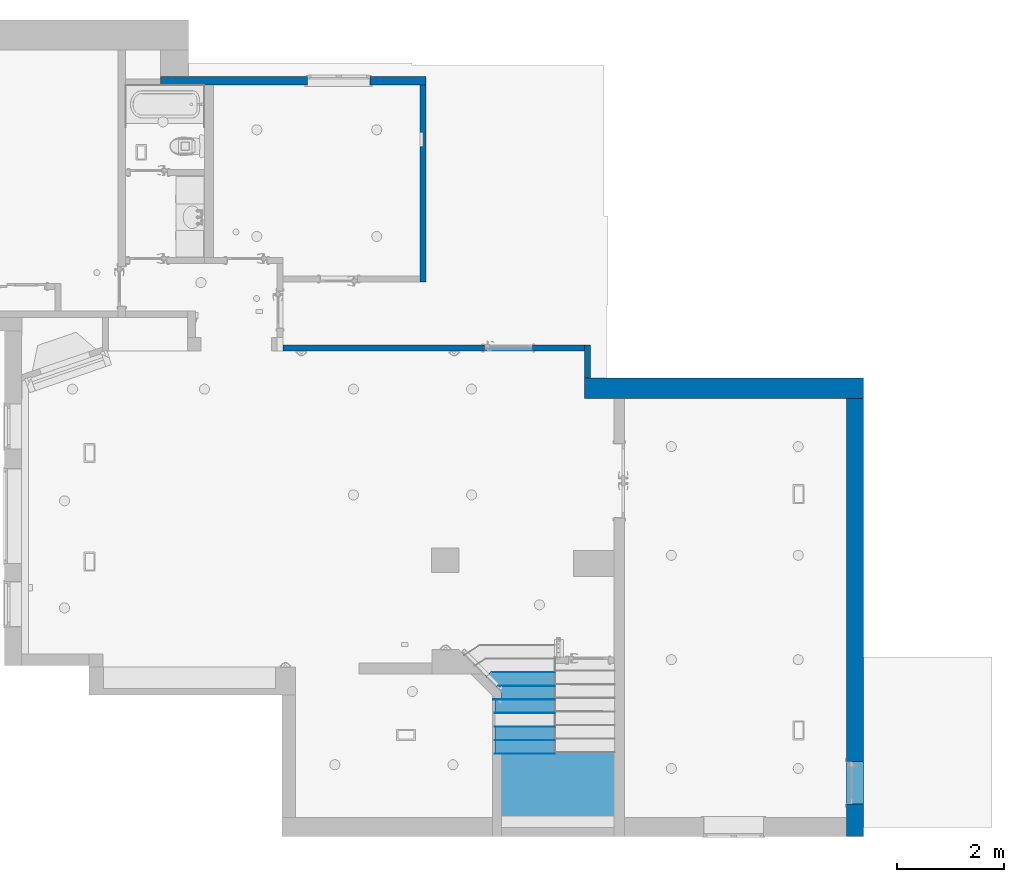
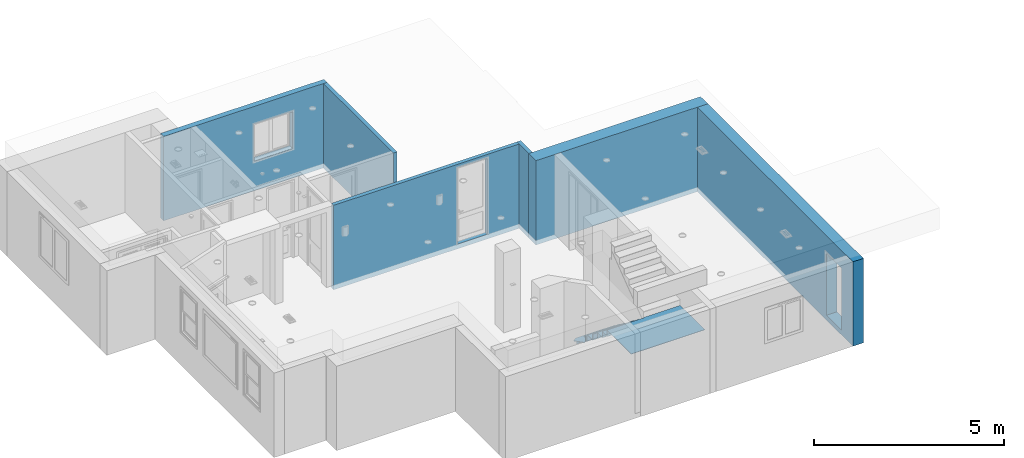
# One storey, part 3 of 24: 13 building element parts, 6 walls, 1 element without a shape of its own.
"""IFC2X3 building model written with IfcOpenShell, lengths in inches."""

from ifc_helpers import new_model, entity, si_unit, converted_unit, derived_unit, money_unit, direction, frame, origin_with_axes, place, context, subcontext, project, spatial, faceted_brep, material, type_object, element, aggregate, save


model = new_model("IFC2X3")

# Units and contexts
model_context = context("Model", 3, precision=0.000393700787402, world=origin_with_axes(), true_north=direction((0.0, 1.0)))
body_context = subcontext(model_context, "Body", "Model", "MODEL_VIEW")
ifc_project = project(units=[converted_unit("LENGTHUNIT", "INCH", entity("IfcPositiveLengthMeasure", 0.0254), si_unit("LENGTHUNIT", "METRE"), dimensions=[1, 0, 0, 0, 0, 0, 0]), converted_unit("AREAUNIT", "SQUARE_FOOT", entity("IfcPositiveLengthMeasure", 0.09290304), si_unit("AREAUNIT", "SQUARE_METRE"), dimensions=[2, 0, 0, 0, 0, 0, 0]), si_unit("PLANEANGLEUNIT", "RADIAN"), si_unit("SOLIDANGLEUNIT", "STERADIAN"), money_unit("USD"), converted_unit("TIMEUNIT", "Year", entity("IfcTimeMeasure", 31556926.0), si_unit("TIMEUNIT", "SECOND"), dimensions=[0, 0, 1, 0, 0, 0, 0]), si_unit("MASSUNIT", "GRAM", prefix="KILO"), si_unit("THERMODYNAMICTEMPERATUREUNIT", "DEGREE_CELSIUS"), si_unit("LUMINOUSINTENSITYUNIT", "LUMEN"), si_unit("ENERGYUNIT", "JOULE", prefix="MEGA"), derived_unit("THERMALCONDUCTANCEUNIT", [(si_unit("POWERUNIT", "WATT"), 1), (si_unit("LENGTHUNIT", "METRE"), -1), (si_unit("THERMODYNAMICTEMPERATUREUNIT", "KELVIN"), -1)]), derived_unit("SPECIFICHEATCAPACITYUNIT", [(si_unit("ENERGYUNIT", "JOULE"), 1), (si_unit("MASSUNIT", "GRAM", prefix="KILO"), -1), (si_unit("THERMODYNAMICTEMPERATUREUNIT", "KELVIN"), -1)]), derived_unit("MASSDENSITYUNIT", [(si_unit("MASSUNIT", "GRAM", prefix="KILO"), 1), (si_unit("VOLUMEUNIT", "CUBIC_METRE"), -1)])], contexts=[model_context])

# Site, building, storey
site_placement = place(None, origin_with_axes())
site = spatial("IfcSite", under=ifc_project, at=site_placement, Name="Site", CompositionType="ELEMENT")
building_placement = place(site_placement, origin_with_axes())
building = spatial("IfcBuilding", under=site, at=building_placement, Name="Building", CompositionType="ELEMENT")
storey_placement = place(building_placement, origin_with_axes())
storey = spatial("IfcBuildingStorey", under=building, at=storey_placement, Name="First Floor", CompositionType="ELEMENT", Elevation=0.0)

# Walls
ifc_material_1 = material(Name="Generic - Structural")
wall_type_1 = type_object("IfcWallType", Name="Generic - Structural 165", PredefinedType="NOTDEFINED")
wall_1_placement = place(storey_placement, frame((583.915153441, 566.450656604, -5.90551181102), z_axis=(0.0, 0.0, 1.0), x_axis=(-1.0, 0.0, 0.0)))
element("IfcWall", 1, at=wall_1_placement, inside=storey, type_object=wall_type_1, material=ifc_material_1, Name="SW - 055", context=body_context, shape_type="Brep", body=[
    faceted_brep([(191.175510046, 0.0, 0.0), (-4.52755905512, 0.0, 0.0), (-4.52755905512, 0.0, 106.88976378), (191.175510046, 0.0, 106.88976378), (191.175510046, 0.0, 5.90551181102), (82.9570061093, 0.0, 37.5984251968), (82.9570061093, 0.0, 84.4488188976), (36.8940139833, 0.0, 84.4488188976), (36.8940139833, 0.0, 37.5984251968), (191.165948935, -6.5, 0.0), (-4.52755905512, -6.5, 0.0), (-4.52755905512, -6.5, 106.88976378), (191.175510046, -6.5, 106.88976378), (191.175510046, -6.5, 5.90551181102), (191.165948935, -6.5, 5.90551181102), (82.9570061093, -6.5, 37.5984251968), (82.9570061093, -6.5, 84.4488188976), (36.8940139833, -6.5, 84.4488188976), (36.8940139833, -6.5, 37.5984251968)], [[[0, 1, 2, 3, 4], [5, 6, 7, 8]], [[0, 9, 10, 1]], [[2, 1, 10, 11]], [[11, 12, 3, 2]], [[13, 4, 3, 12]], [[14, 9, 0, 4]], [[15, 16, 6, 5]], [[16, 17, 7, 6]], [[17, 18, 8, 7]], [[18, 15, 5, 8]], [[12, 11, 10, 9, 14, 13], [15, 18, 17, 16]], [[4, 13, 14]]]),
])
wall_type_2 = type_object("IfcWallType", Name="Generic - Structural 115", PredefinedType="NOTDEFINED")
wall_2_placement = place(storey_placement, frame((583.915153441, 425.90717231, -5.90551181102), z_axis=(0.0, 0.0, 1.0), x_axis=(0.0, 1.0, 0.0)))
element("IfcWall", 2, at=wall_2_placement, inside=storey, type_object=wall_type_2, material=ifc_material_1, Name="SW - 054", context=body_context, shape_type="Brep", body=[
    faceted_brep([(140.543484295, 0.0, 0.0), (140.543484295, -4.52755905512, 0.0), (-4.52747988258, -4.52755905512, 0.0), (-4.52755905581, 0.0, 0.0), (140.543484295, 0.0, 106.88976378), (140.543484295, -4.52755905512, 106.88976378), (-4.52747988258, -4.52755905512, 106.88976378), (-4.52755905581, 0.0, 106.88976378)], [[[0, 1, 2, 3]], [[1, 0, 4, 5]], [[1, 5, 6, 2]], [[7, 3, 2, 6]], [[4, 0, 3, 7]], [[5, 4, 7, 6]]]),
])
wall_3_placement = place(storey_placement, frame((704.989171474, 335.554435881, -5.90551181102), z_axis=(0.0, 0.0, 1.0), x_axis=(0.0, 1.0, 0.0)))
element("IfcWall", 3, at=wall_3_placement, inside=storey, type_object=wall_type_2, material=ifc_material_1, Name="SW - 015", context=body_context, shape_type="Brep", body=[
    faceted_brep([(39.3802954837, 0.0, 0.0), (39.3802954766, -4.52755905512, 0.0), (14.9606299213, -4.52755905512, 0.0), (14.9606299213, 0.0, 0.0), (39.3802954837, 0.0, 106.88976378), (39.3802954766, -4.52755905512, 106.88976378), (14.9606299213, -4.52755905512, 106.88976378), (14.9606299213, 0.0, 106.88976378)], [[[0, 1, 2, 3]], [[1, 0, 4, 5]], [[1, 5, 6, 2]], [[7, 3, 2, 6]], [[4, 0, 3, 7]], [[5, 4, 7, 6]]]),
])
wall_4_placement = place(storey_placement, frame((704.989171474, 370.40717231, -5.90551181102), z_axis=(0.0, 0.0, 1.0), x_axis=(-1.0, 1.55820637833e-09, 0.0)))
element("IfcWall", 4, at=wall_4_placement, inside=storey, type_object=wall_type_2, material=ifc_material_1, Name="SW - 016", context=body_context, shape_type="Brep", body=[
    faceted_brep([(222.050652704, 3.46000743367e-07, 106.88976378), (222.050652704, 3.46000743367e-07, 0.0), (0.0, 0.0, 0.0), (0.0, 0.0, 106.88976378), (73.6283275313, 1.14728174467e-07, 5.90551181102), (73.6283275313, 1.14728174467e-07, 102.362204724), (38.1952566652, 5.9516136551e-08, 102.362204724), (38.1952566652, 5.9516136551e-08, 5.90551181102), (222.050652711, -4.52755870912, 106.88976378), (222.050652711, -4.52755870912, 0.0), (7.05493406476e-09, -4.52755905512, 0.0), (7.05493406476e-09, -4.52755905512, 106.88976378), (73.6283275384, -4.52755894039, 5.90551181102), (73.6283275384, -4.52755894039, 102.362204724), (38.1952566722, -4.5275589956, 102.362204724), (38.1952566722, -4.5275589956, 5.90551181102)], [[[0, 1, 2, 3], [4, 5, 6, 7]], [[1, 0, 8, 9]], [[1, 9, 10, 2]], [[2, 10, 11, 3]], [[8, 0, 3, 11]], [[12, 13, 5, 4]], [[13, 14, 6, 5]], [[14, 15, 7, 6]], [[15, 12, 4, 7]], [[9, 8, 11, 10], [12, 15, 14, 13]]]),
])
wall_type_3 = type_object("IfcWallType", Name="Generic - Structural 320", PredefinedType="NOTDEFINED")
wall_5_placement = place(storey_placement, frame((898.119947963, 12.9071723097, -5.90551181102), z_axis=(0.0, 0.0, 1.0), x_axis=(0.0, 1.0, 0.0)))
element("IfcWall", 5, at=wall_5_placement, inside=storey, type_object=wall_type_3, material=ifc_material_1, Name="SW - 064", context=body_context, shape_type="Brep", body=[
    faceted_brep([(0.0, 0.0, 106.88976378), (322.647263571, 0.0, 106.88976378), (322.647263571, 0.0, 0.0), (0.0, 0.0, 0.0), (55.1320860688, 0.0, 5.90551181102), (55.1320860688, 0.0, 84.6456692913), (23.6360230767, 0.0, 84.6456692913), (23.6360230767, 0.0, 5.90551181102), (0.0, -12.5984251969, 106.88976378), (322.647263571, -12.5984251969, 106.88976378), (322.647263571, -12.5984251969, 0.0), (0.0, -12.5984251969, 0.0), (55.1320860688, -12.5984251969, 84.6456692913), (55.1320860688, -12.5984251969, 5.90551181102), (23.6360230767, -12.5984251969, 84.6456692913), (23.6360230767, -12.5984251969, 5.90551181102)], [[[0, 1, 2, 3], [4, 5, 6, 7]], [[8, 9, 1, 0]], [[9, 10, 2, 1]], [[3, 2, 10, 11]], [[8, 0, 3, 11]], [[12, 5, 4, 13]], [[14, 6, 5, 12]], [[15, 7, 6, 14]], [[4, 7, 15, 13]], [[11, 10, 9, 8], [12, 13, 15, 14]]]),
])
wall_type_4 = type_object("IfcWallType", Name="Generic - Structural 380", PredefinedType="NOTDEFINED")
wall_6_placement = place(storey_placement, frame((898.119947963, 335.554435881, -5.90551181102), z_axis=(0.0, 0.0, 1.0), x_axis=(-1.0, 0.0, 0.0)))
element("IfcWall", 6, at=wall_6_placement, inside=storey, type_object=wall_type_4, material=ifc_material_1, Name="SW - 014", context=body_context, shape_type="Brep", body=[
    faceted_brep([(193.130776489, 0.0, 0.0), (193.130776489, -14.9606299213, 0.0), (-12.5984251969, -14.9606299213, 0.0), (-12.5984251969, 0.0, 0.0), (193.130776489, 0.0, 106.88976378), (193.130776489, -14.9606299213, 106.88976378), (-12.5984251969, -14.9606299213, 106.88976378), (-12.5984251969, 0.0, 106.88976378)], [[[0, 1, 2, 3]], [[1, 0, 4, 5]], [[1, 5, 6, 2]], [[7, 3, 2, 6]], [[4, 0, 3, 7]], [[5, 4, 7, 6]]]),
])

# Stair, building element parts
stair_placement = place(storey_placement, frame((683.15053629, 154.289481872, 0.0), z_axis=(0.0, 0.0, 1.0), x_axis=(1.0, 0.0, 0.0)))
stair = element("IfcStair", 7, at=stair_placement, inside=storey, Name="STAIR-30", ShapeType="NOTDEFINED")
ifc_material_2 = material(Name="Timber - Floor")
building_element_part_1_placement = place(stair_placement, origin_with_axes())
building_element_part_1 = element("IfcBuildingElementPart", 8, at=building_element_part_1_placement, material=ifc_material_2, Name="Timber - Floor", context=body_context, shape_type="Brep", body=[
    faceted_brep([(-46.2164812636, -20.5, 22.2362204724), (-46.2164812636, -20.625, 22.2362204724), (-0.0472440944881, -20.625, 22.2362204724), (-0.0472440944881, -20.5, 22.2362204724), (-46.2164812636, -20.5, 15.157480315), (-46.2164812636, -20.625, 15.157480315), (-0.0472440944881, -20.625, 15.157480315), (-0.0472440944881, -20.5, 15.157480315)], [[[0, 1, 2, 3]], [[0, 4, 5, 1]], [[1, 5, 6, 2]], [[3, 2, 6, 7]], [[4, 0, 3, 7]], [[5, 4, 7, 6]]]),
])
building_element_part_2_placement = place(stair_placement, origin_with_axes())
building_element_part_2 = element("IfcBuildingElementPart", 9, at=building_element_part_2_placement, material=ifc_material_2, Name="Timber - Floor", context=body_context, shape_type="Brep", body=[
    faceted_brep([(-41.3879487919, -30.5, 29.8149606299), (-41.3879487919, -30.625, 29.8149606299), (-0.0472440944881, -30.625, 29.8149606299), (-0.0472440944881, -30.5, 29.8149606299), (-41.3879487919, -30.5, 22.7362204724), (-41.3879487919, -30.625, 22.7362204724), (-0.0472440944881, -30.625, 22.7362204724), (-0.0472440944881, -30.5, 22.7362204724)], [[[0, 1, 2, 3]], [[0, 4, 5, 1]], [[1, 5, 6, 2]], [[3, 2, 6, 7]], [[4, 0, 3, 7]], [[5, 4, 7, 6]]]),
])
building_element_part_3_placement = place(stair_placement, origin_with_axes())
building_element_part_3 = element("IfcBuildingElementPart", 10, at=building_element_part_3_placement, material=ifc_material_2, Name="Timber - Floor", context=body_context, shape_type="Brep", body=[
    faceted_brep([(-45.4236061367, -40.5, 37.3937007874), (-45.4236061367, -40.625, 37.3937007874), (-0.0472440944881, -40.625, 37.3937007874), (-0.0472440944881, -40.5, 37.3937007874), (-45.4236061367, -40.5, 30.3149606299), (-45.4236061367, -40.625, 30.3149606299), (-0.0472440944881, -40.625, 30.3149606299), (-0.0472440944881, -40.5, 30.3149606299)], [[[0, 1, 2, 3]], [[0, 4, 5, 1]], [[1, 5, 6, 2]], [[3, 2, 6, 7]], [[4, 0, 3, 7]], [[5, 4, 7, 6]]]),
])
building_element_part_4_placement = place(stair_placement, origin_with_axes())
building_element_part_4 = element("IfcBuildingElementPart", 11, at=building_element_part_4_placement, material=ifc_material_2, Name="Timber - Floor", context=body_context, shape_type="Brep", body=[
    faceted_brep([(-44.0018986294, -50.5, 44.9724409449), (-44.001903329, -50.625, 44.9724409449), (0.0, -50.625, 44.9724409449), (0.0, -50.5, 44.9724409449), (-44.0018986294, -50.5, 37.8937007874), (-44.001903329, -50.625, 37.8937007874), (0.0, -50.625, 37.8937007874), (0.0, -50.5, 37.8937007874)], [[[0, 1, 2, 3]], [[0, 4, 5, 1]], [[1, 5, 6, 2]], [[3, 2, 6, 7]], [[4, 0, 3, 7]], [[5, 4, 7, 6]]]),
])
building_element_part_5_placement = place(stair_placement, origin_with_axes())
building_element_part_5 = element("IfcBuildingElementPart", 12, at=building_element_part_5_placement, material=ifc_material_2, Name="Timber - Floor", context=body_context, shape_type="Brep", body=[
    faceted_brep([(-44.0022745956, -60.5, 52.5511811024), (-44.0022792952, -60.625, 52.5511811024), (0.0, -60.625, 52.5511811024), (0.0, -60.5, 52.5511811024), (-44.0022745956, -60.5, 45.4724409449), (-44.0022792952, -60.625, 45.4724409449), (0.0, -60.625, 45.4724409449), (0.0, -60.5, 45.4724409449)], [[[0, 1, 2, 3]], [[0, 4, 5, 1]], [[1, 5, 6, 2]], [[3, 2, 6, 7]], [[4, 0, 3, 7]], [[5, 4, 7, 6]]]),
])
building_element_part_6_placement = place(stair_placement, origin_with_axes())
building_element_part_6 = element("IfcBuildingElementPart", 13, at=building_element_part_6_placement, material=ifc_material_2, Name="Timber - Floor", context=body_context, shape_type="Brep", body=[
    faceted_brep([(-44.0026505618, -70.5, 60.1299212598), (-44.0026552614, -70.625, 60.1299212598), (0.0, -70.625, 60.1299212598), (0.0, -70.5, 60.1299212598), (-44.0026505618, -70.5, 53.0511811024), (-44.0026552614, -70.625, 53.0511811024), (0.0, -70.625, 53.0511811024), (0.0, -70.5, 53.0511811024)], [[[0, 1, 2, 3]], [[0, 4, 5, 1]], [[1, 5, 6, 2]], [[3, 2, 6, 7]], [[4, 0, 3, 7]], [[5, 4, 7, 6]]]),
])
building_element_part_7_placement = place(stair_placement, origin_with_axes())
building_element_part_7 = element("IfcBuildingElementPart", 14, at=building_element_part_7_placement, material=ifc_material_2, Name="Timber - Floor", context=body_context, shape_type="Brep", body=[
    faceted_brep([(-44.0030265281, -80.5, 67.7086614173), (-44.0030312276, -80.625, 67.7086614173), (0.0, -80.625, 67.7086614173), (0.0, -80.5, 67.7086614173), (-44.0030265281, -80.5, 60.6299212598), (-44.0030312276, -80.625, 60.6299212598), (0.0, -80.625, 60.6299212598), (0.0, -80.5, 60.6299212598)], [[[0, 1, 2, 3]], [[0, 4, 5, 1]], [[1, 5, 6, 2]], [[3, 2, 6, 7]], [[4, 0, 3, 7]], [[5, 4, 7, 6]]]),
])
building_element_part_8_placement = place(stair_placement, origin_with_axes())
building_element_part_8 = element("IfcBuildingElementPart", 15, at=building_element_part_8_placement, material=ifc_material_2, Name="Timber - Floor", context=body_context, shape_type="Brep", body=[
    faceted_brep([(-43.1193170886, -31.538216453, 22.7362204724), (-51.3844307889, -23.1655384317, 22.7362204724), (-51.3844307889, -23.1655384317, 22.2362204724), (-43.1193170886, -31.538216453, 22.2362204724), (-41.4912413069, -30.5, 22.7362204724), (-0.0472440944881, -30.6250003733, 22.7362204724), (-0.0472440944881, -20.2499998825, 22.7362204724), (-46.8312290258, -20.2499998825, 22.7362204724), (-46.7634323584, -20.2065878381, 22.2400185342), (-46.8312290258, -20.2499998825, 22.2362204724), (-46.7634323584, -20.2065878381, 22.7324224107), (-46.6976956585, -20.1644948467, 22.7211436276), (-46.6360163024, -20.1249998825, 22.7027268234), (-46.580268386, -20.0893029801, 22.6777315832), (-46.5321457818, -20.0584887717, 22.6469173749), (-46.4931106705, -20.0334935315, 22.6112204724), (-46.4643491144, -20.0150767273, 22.5717255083), (-46.4467350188, -20.0037979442, 22.5296325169), (-46.440803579, -19.9999998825, 22.4862204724), (-46.4467350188, -20.0037979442, 22.442808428), (-46.4643491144, -20.0150767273, 22.4007154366), (-46.4931106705, -20.0334935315, 22.3612204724), (-46.5321457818, -20.0584887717, 22.32552357), (-46.580268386, -20.0893029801, 22.2947093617), (-46.6360163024, -20.1249998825, 22.2697141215), (-46.6976956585, -20.1644948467, 22.2512973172), (-0.0472440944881, -20.2499998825, 22.2362204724), (-0.0472440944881, -30.6250003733, 22.2362204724), (-41.4912413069, -30.5, 22.2362204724), (-0.0472440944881, -20.2065878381, 22.2400185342), (-0.0472440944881, -20.1644948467, 22.2512973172), (-0.0472440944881, -20.1249998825, 22.2697141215), (-0.0472440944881, -20.0893029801, 22.2947093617), (-0.0472440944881, -20.0584887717, 22.32552357), (-0.0472440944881, -20.0334935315, 22.3612204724), (-0.0472440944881, -20.0150767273, 22.4007154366), (-0.0472440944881, -20.0037979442, 22.442808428), (-0.0472440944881, -19.9999998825, 22.4862204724), (-0.0472440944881, -20.0037979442, 22.5296325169), (-0.0472440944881, -20.0150767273, 22.5717255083), (-0.0472440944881, -20.0334935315, 22.6112204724), (-0.0472440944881, -20.0584887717, 22.6469173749), (-0.0472440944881, -20.0893029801, 22.6777315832), (-0.0472440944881, -20.1249998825, 22.7027268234), (-0.0472440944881, -20.1644948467, 22.7211436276), (-0.0472440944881, -20.2065878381, 22.7324224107)], [[[0, 1, 2, 3]], [[1, 0, 4, 5, 6, 7]], [[8, 9, 2, 1, 7, 10, 11, 12, 13, 14, 15, 16, 17, 18, 19, 20, 21, 22, 23, 24, 25]], [[9, 26, 27, 28, 3, 2]], [[4, 0, 3, 28]], [[5, 4, 28, 27]], [[6, 5, 27, 26, 29, 30, 31, 32, 33, 34, 35, 36, 37, 38, 39, 40, 41, 42, 43, 44, 45]], [[10, 7, 6, 45]], [[9, 8, 29, 26]], [[11, 10, 45, 44]], [[12, 11, 44, 43]], [[13, 12, 43, 42]], [[14, 13, 42, 41]], [[15, 14, 41, 40]], [[16, 15, 40, 39]], [[17, 16, 39, 38]], [[18, 17, 38, 37]], [[19, 18, 37, 36]], [[20, 19, 36, 35]], [[21, 20, 35, 34]], [[22, 21, 34, 33]], [[23, 22, 33, 32]], [[24, 23, 32, 31]], [[25, 24, 31, 30]], [[8, 25, 30, 29]]]),
])
building_element_part_9_placement = place(stair_placement, origin_with_axes())
building_element_part_9 = element("IfcBuildingElementPart", 16, at=building_element_part_9_placement, material=ifc_material_2, Name="Timber - Floor", context=body_context, shape_type="Brep", body=[
    faceted_brep([(-39.2081370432, -35.3818475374, 30.3149606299), (-43.3526416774, -31.2210941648, 30.3149606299), (-43.3526416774, -31.2210941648, 29.8149606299), (-39.2081370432, -35.3818475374, 29.8149606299), (-39.2081370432, -40.625, 30.3149606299), (-0.0472440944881, -40.625, 30.3149606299), (-0.0472440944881, -30.2499997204, 30.3149606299), (-41.8272687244, -30.2499997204, 30.3149606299), (-41.7590780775, -30.2065876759, 29.8187586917), (-41.8272687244, -30.2499997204, 29.8149606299), (-41.7590780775, -30.2065876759, 30.3111625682), (-41.6929593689, -30.1644946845, 30.2998837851), (-41.630921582, -30.1249997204, 30.2814669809), (-41.5748497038, -30.0893028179, 30.2564717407), (-41.5264474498, -30.0584886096, 30.2256575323), (-41.4871854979, -30.0334933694, 30.1899606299), (-41.4582568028, -30.0150765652, 30.1504656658), (-41.4405403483, -30.0037977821, 30.1083726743), (-41.4345744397, -29.9999997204, 30.0649606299), (-41.4405403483, -30.0037977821, 30.0215485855), (-41.4582568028, -30.0150765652, 29.9794555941), (-41.4871854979, -30.0334933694, 29.9399606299), (-41.5264474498, -30.0584886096, 29.9042637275), (-41.5748497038, -30.0893028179, 29.8734495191), (-41.630921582, -30.1249997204, 29.848454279), (-41.6929593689, -30.1644946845, 29.8300374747), (-0.0472440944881, -30.2499997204, 29.8149606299), (-0.0472440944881, -40.625, 29.8149606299), (-39.2081370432, -40.625, 29.8149606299), (-0.0472440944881, -30.2065876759, 29.8187586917), (-0.0472440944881, -30.1644946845, 29.8300374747), (-0.0472440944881, -30.1249997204, 29.848454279), (-0.0472440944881, -30.0893028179, 29.8734495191), (-0.0472440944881, -30.0584886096, 29.9042637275), (-0.0472440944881, -30.0334933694, 29.9399606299), (-0.0472440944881, -30.0150765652, 29.9794555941), (-0.0472440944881, -30.0037977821, 30.0215485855), (-0.0472440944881, -29.9999997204, 30.0649606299), (-0.0472440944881, -30.0037977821, 30.1083726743), (-0.0472440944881, -30.0150765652, 30.1504656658), (-0.0472440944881, -30.0334933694, 30.1899606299), (-0.0472440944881, -30.0584886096, 30.2256575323), (-0.0472440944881, -30.0893028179, 30.2564717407), (-0.0472440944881, -30.1249997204, 30.2814669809), (-0.0472440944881, -30.1644946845, 30.2998837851), (-0.0472440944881, -30.2065876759, 30.3111625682)], [[[0, 1, 2, 3]], [[1, 0, 4, 5, 6, 7]], [[8, 9, 2, 1, 7, 10, 11, 12, 13, 14, 15, 16, 17, 18, 19, 20, 21, 22, 23, 24, 25]], [[9, 26, 27, 28, 3, 2]], [[4, 0, 3, 28]], [[5, 4, 28, 27]], [[6, 5, 27, 26, 29, 30, 31, 32, 33, 34, 35, 36, 37, 38, 39, 40, 41, 42, 43, 44, 45]], [[10, 7, 6, 45]], [[9, 8, 29, 26]], [[11, 10, 45, 44]], [[12, 11, 44, 43]], [[13, 12, 43, 42]], [[14, 13, 42, 41]], [[15, 14, 41, 40]], [[16, 15, 40, 39]], [[17, 16, 39, 38]], [[18, 17, 38, 37]], [[19, 18, 37, 36]], [[20, 19, 36, 35]], [[21, 20, 35, 34]], [[22, 21, 34, 33]], [[23, 22, 33, 32]], [[24, 23, 32, 31]], [[25, 24, 31, 30]], [[8, 25, 30, 29]]]),
])
building_element_part_10_placement = place(stair_placement, origin_with_axes())
building_element_part_10 = element("IfcBuildingElementPart", 17, at=building_element_part_10_placement, material=ifc_material_2, Name="Timber - Floor", context=body_context, shape_type="Brep", body=[
    faceted_brep([(-0.0472440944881, -40.0584888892, 37.483003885), (-0.0472440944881, -40.0893030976, 37.4521896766), (-44.0462806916, -40.0893028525, 37.4521896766), (-44.0462806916, -40.0584886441, 37.483003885), (-0.0472440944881, -40.0150768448, 37.5581957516), (-0.0472440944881, -40.0037980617, 37.600288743), (-0.0472440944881, -40.0, 37.6437007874), (-0.0472440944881, -40.0037980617, 37.6871128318), (-0.0472440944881, -40.0150768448, 37.7292058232), (-0.0472440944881, -40.0334936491, 37.7687007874), (-0.0472440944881, -40.0584888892, 37.8043976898), (-0.0472440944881, -40.0893030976, 37.8352118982), (-0.0472440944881, -40.125, 37.8602071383), (-0.0472440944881, -40.1644949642, 37.8786239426), (-0.0472440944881, -40.2065879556, 37.8899027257), (-0.0472440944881, -40.25, 37.8937007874), (-0.0472440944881, -50.625, 37.8937007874), (-0.0472440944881, -50.625, 37.3937007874), (-0.0472440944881, -40.25, 37.3937007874), (-0.0472440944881, -40.2065879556, 37.3974988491), (-0.0472440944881, -40.1644949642, 37.4087776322), (-0.0472440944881, -40.125, 37.4271944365), (-0.0472440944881, -40.0334936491, 37.5187007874), (-44.0462806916, -40.1249997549, 37.4271944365), (-44.0462806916, -40.0037978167, 37.600288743), (-44.0462806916, -40.0150765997, 37.5581957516), (-44.0462806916, -40.033493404, 37.5187007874), (-44.0462806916, -40.1644947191, 37.4087776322), (-44.0462806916, -40.2065877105, 37.3974988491), (-44.0462806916, -40.2499997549, 37.3937007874), (-44.0472440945, -43.5706707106, 37.3937007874), (-44.0472440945, -43.5706707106, 37.8937007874), (-44.0462806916, -40.2499997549, 37.8937007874), (-44.0462806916, -40.2065877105, 37.8899027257), (-44.0462806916, -40.1644947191, 37.8786239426), (-44.0462806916, -40.1249997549, 37.8602071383), (-44.0462806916, -40.0893028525, 37.8352118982), (-44.0462806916, -40.0584886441, 37.8043976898), (-44.0462806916, -40.033493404, 37.7687007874), (-44.0462806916, -40.0150765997, 37.7292058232), (-44.0462806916, -40.0037978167, 37.6871128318), (-44.0462806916, -39.9999997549, 37.6437007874), (-44.0491474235, -50.625, 37.8937007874), (-44.0491474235, -50.625, 37.3937007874)], [[[0, 1, 2, 3]], [[4, 5, 6, 7, 8, 9, 10, 11, 12, 13, 14, 15, 16, 17, 18, 19, 20, 21, 1, 0, 22]], [[1, 21, 23, 2]], [[24, 25, 26, 3, 2, 23, 27, 28, 29, 30, 31, 32, 33, 34, 35, 36, 37, 38, 39, 40, 41]], [[22, 0, 3, 26]], [[5, 4, 25, 24]], [[6, 5, 24, 41]], [[7, 6, 41, 40]], [[8, 7, 40, 39]], [[9, 8, 39, 38]], [[10, 9, 38, 37]], [[11, 10, 37, 36]], [[12, 11, 36, 35]], [[13, 12, 35, 34]], [[14, 13, 34, 33]], [[15, 14, 33, 32]], [[16, 15, 32, 31, 42]], [[17, 16, 42, 43]], [[18, 17, 43, 30, 29]], [[18, 29, 28, 19]], [[20, 19, 28, 27]], [[21, 20, 27, 23]], [[4, 22, 26, 25]], [[30, 43, 42, 31]]]),
])
building_element_part_11_placement = place(stair_placement, origin_with_axes())
building_element_part_11 = element("IfcBuildingElementPart", 18, at=building_element_part_11_placement, material=ifc_material_2, Name="Timber - Floor", context=body_context, shape_type="Brep", body=[
    faceted_brep([(0.0, -60.0150768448, 52.7156760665), (0.0, -60.0334936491, 52.6761811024), (-44.0022557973, -60.0334936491, 52.6761811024), (-44.0022557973, -60.0150768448, 52.7156760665), (0.0, -60.0584888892, 52.6404841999), (0.0, -60.0037980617, 52.7577690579), (0.0, -60.0, 52.8011811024), (0.0, -60.0037980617, 52.8445931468), (0.0, -60.0150768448, 52.8866861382), (0.0, -60.0334936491, 52.9261811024), (0.0, -60.0584888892, 52.9618780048), (0.0, -60.0893030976, 52.9926922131), (0.0, -60.125, 53.0176874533), (0.0, -60.1644949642, 53.0361042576), (0.0, -60.2065879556, 53.0473830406), (0.0, -60.25, 53.0511811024), (0.0, -70.625, 53.0511811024), (0.0, -70.625, 52.5511811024), (0.0, -60.25, 52.5511811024), (0.0, -60.2065879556, 52.5549791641), (0.0, -60.1644949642, 52.5662579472), (0.0, -60.125, 52.5846747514), (0.0, -60.0893030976, 52.6096699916), (-44.0022557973, -60.0584888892, 52.6404841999), (-44.0022557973, -60.0037980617, 52.7577690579), (-44.0022557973, -60.0893030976, 52.6096699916), (-44.0022557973, -60.125, 52.5846747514), (-44.0022557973, -60.1644949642, 52.5662579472), (-44.0022557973, -60.2065879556, 52.5549791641), (-44.0022557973, -60.25, 52.5511811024), (-44.0026552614, -70.625, 52.5511811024), (-44.0026552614, -70.625, 53.0511811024), (-44.0022557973, -60.25, 53.0511811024), (-44.0022557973, -60.2065879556, 53.0473830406), (-44.0022557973, -60.1644949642, 53.0361042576), (-44.0022557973, -60.125, 53.0176874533), (-44.0022557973, -60.0893030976, 52.9926922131), (-44.0022557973, -60.0584888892, 52.9618780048), (-44.0022557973, -60.0334936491, 52.9261811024), (-44.0022557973, -60.0150768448, 52.8866861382), (-44.0022557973, -60.0037980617, 52.8445931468), (-44.0022557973, -60.0, 52.8011811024)], [[[0, 1, 2, 3]], [[4, 1, 0, 5, 6, 7, 8, 9, 10, 11, 12, 13, 14, 15, 16, 17, 18, 19, 20, 21, 22]], [[1, 4, 23, 2]], [[24, 3, 2, 23, 25, 26, 27, 28, 29, 30, 31, 32, 33, 34, 35, 36, 37, 38, 39, 40, 41]], [[5, 0, 3, 24]], [[6, 5, 24, 41]], [[7, 6, 41, 40]], [[8, 7, 40, 39]], [[9, 8, 39, 38]], [[10, 9, 38, 37]], [[11, 10, 37, 36]], [[12, 11, 36, 35]], [[13, 12, 35, 34]], [[13, 34, 33, 14]], [[15, 14, 33, 32]], [[16, 15, 32, 31]], [[17, 16, 31, 30]], [[18, 17, 30, 29]], [[19, 18, 29, 28]], [[20, 19, 28, 27]], [[21, 20, 27, 26]], [[22, 21, 26, 25]], [[4, 22, 25, 23]]]),
])
building_element_part_12_placement = place(stair_placement, origin_with_axes())
building_element_part_12 = element("IfcBuildingElementPart", 19, at=building_element_part_12_placement, material=ifc_material_2, Name="Timber - Floor", context=body_context, shape_type="Brep", body=[
    faceted_brep([(0.0, -79.9999998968, 60.1299212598), (0.0, -79.9999998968, 60.6299212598), (0.0, -80.625, 60.6299212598), (0.0, -80.625, 60.1299212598), (0.0, -70.125, 60.1634149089), (0.0, -70.0893030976, 60.1884101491), (0.0, -70.0584888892, 60.2192243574), (0.0, -70.0334936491, 60.2549212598), (0.0, -70.0150768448, 60.294416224), (0.0, -70.0037980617, 60.3365092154), (0.0, -70.0, 60.3799212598), (0.0, -70.0037980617, 60.4233333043), (0.0, -70.0150768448, 60.4654262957), (0.0, -70.0334936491, 60.5049212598), (0.0, -70.0584888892, 60.5406181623), (0.0, -70.0893030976, 60.5714323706), (0.0, -70.125, 60.5964276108), (0.0, -70.1644949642, 60.614844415), (0.0, -70.2065879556, 60.6261231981), (0.0, -70.25, 60.6299212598), (0.0, -70.25, 60.1299212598), (0.0, -70.2065879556, 60.1337193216), (0.0, -70.1644949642, 60.1449981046), (-44.0026317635, -70.25, 60.6299212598), (-44.0030312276, -80.6249999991, 60.6299212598), (-44.0030312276, -80.6249999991, 60.1299212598), (-44.0026317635, -70.25, 60.1299212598), (-44.0026317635, -70.125, 60.1634149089), (-44.0026317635, -70.0893030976, 60.1884101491), (-44.0026317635, -70.0584888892, 60.2192243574), (-44.0026317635, -70.0334936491, 60.2549212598), (-44.0026317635, -70.0150768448, 60.294416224), (-44.0026317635, -70.0037980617, 60.3365092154), (-44.0026317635, -70.0, 60.3799212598), (-44.0026317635, -70.0037980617, 60.4233333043), (-44.0026317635, -70.0150768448, 60.4654262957), (-44.0026317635, -70.0334936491, 60.5049212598), (-44.0026317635, -70.0584888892, 60.5406181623), (-44.0026317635, -70.0893030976, 60.5714323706), (-44.0026317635, -70.125, 60.5964276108), (-44.0026317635, -70.1644949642, 60.614844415), (-44.0026317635, -70.2065879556, 60.6261231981), (-44.0026317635, -70.2065879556, 60.1337193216), (-44.0026317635, -70.1644949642, 60.1449981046)], [[[0, 1, 2, 3]], [[4, 5, 6, 7, 8, 9, 10, 11, 12, 13, 14, 15, 16, 17, 18, 19, 1, 0, 20, 21, 22]], [[1, 19, 23, 24, 2]], [[3, 2, 24, 25]], [[20, 0, 3, 25, 26]], [[5, 4, 27, 28]], [[6, 5, 28, 29]], [[7, 6, 29, 30]], [[8, 7, 30, 31]], [[9, 8, 31, 32]], [[10, 9, 32, 33]], [[11, 10, 33, 34]], [[12, 11, 34, 35]], [[13, 12, 35, 36]], [[14, 13, 36, 37]], [[15, 14, 37, 38]], [[16, 15, 38, 39]], [[17, 16, 39, 40]], [[41, 18, 17, 40]], [[19, 18, 41, 23]], [[21, 20, 26, 42]], [[22, 21, 42, 43]], [[4, 22, 43, 27]], [[32, 31, 30, 29, 28, 27, 43, 42, 26, 25, 24, 23, 41, 40, 39, 38, 37, 36, 35, 34, 33]]]),
])
building_element_part_13_placement = place(stair_placement, origin_with_axes())
building_element_part_13 = element("IfcBuildingElementPart", 20, at=building_element_part_13_placement, material=ifc_material_2, Name="Timber - Floor", context=body_context, shape_type="Brep", body=[
    faceted_brep([(44.143189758, -79.4167358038, 67.7086614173), (0.14054622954, -79.37511067, 67.7086614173), (0.14054622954, -79.37511067, 68.2086614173), (44.143189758, -79.4167358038, 68.2086614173), (44.0971157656, -130.180738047, 67.7086614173), (-44.0048942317, -130.177431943, 67.7086614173), (-44.0030080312, -80.2499999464, 67.7086614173), (6.53000663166e-07, -80.2499999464, 67.7086614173), (6.53000663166e-07, -79.9999999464, 67.7086614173), (0.139955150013, -80.0001102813, 67.7086614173), (0.139955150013, -80.0001102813, 68.2086614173), (6.53000663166e-07, -79.9999999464, 68.2086614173), (6.53000663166e-07, -80.2499999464, 68.2086614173), (-44.0030080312, -80.2499999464, 68.2086614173), (-44.0048942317, -130.177431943, 68.2086614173), (44.0971157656, -130.180738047, 68.2086614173), (-44.0030080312, -80.0037980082, 67.9152493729), (-44.0030080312, -80.0150767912, 67.8731563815), (-44.0030080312, -80.0334935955, 67.8336614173), (-44.0030080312, -80.0584888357, 67.7979645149), (-44.0030080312, -80.089303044, 67.7671503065), (-44.0030080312, -80.1249999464, 67.7421550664), (-44.0030080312, -80.1644949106, 67.7237382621), (-44.0030080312, -80.206587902, 67.7124594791), (-44.0030080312, -80.206587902, 68.2048633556), (-44.0030080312, -80.1644949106, 68.1935845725), (-44.0030080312, -80.1249999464, 68.1751677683), (-44.0030080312, -80.089303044, 68.1501725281), (-44.0030080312, -80.0584888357, 68.1193583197), (-44.0030080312, -80.0334935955, 68.0836614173), (-44.0030080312, -80.0150767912, 68.0441664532), (-44.0030080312, -80.0037980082, 68.0020734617), (-44.0030080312, -79.9999999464, 67.9586614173), (6.53000663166e-07, -80.206587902, 67.7124594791), (6.53000663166e-07, -79.9999999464, 67.9586614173), (6.53000663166e-07, -80.1644949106, 67.7237382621), (6.53000663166e-07, -80.1249999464, 67.7421550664), (6.53000663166e-07, -80.089303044, 67.7671503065), (6.53000663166e-07, -80.0584888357, 67.7979645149), (6.53000663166e-07, -80.0334935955, 67.8336614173), (6.53000663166e-07, -80.0150767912, 67.8731563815), (6.53000663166e-07, -80.0037980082, 67.9152493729), (6.53000663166e-07, -80.206587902, 68.2048633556), (6.53000663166e-07, -80.0037980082, 68.0020734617), (6.53000663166e-07, -80.0150767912, 68.0441664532), (6.53000663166e-07, -80.0334935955, 68.0836614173), (6.53000663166e-07, -80.0584888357, 68.1193583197), (6.53000663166e-07, -80.089303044, 68.1501725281), (6.53000663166e-07, -80.1249999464, 68.1751677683), (6.53000663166e-07, -80.1644949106, 68.1935845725)], [[[0, 1, 2, 3]], [[1, 0, 4, 5, 6, 7, 8, 9]], [[2, 1, 9, 10]], [[3, 2, 10, 11, 12, 13, 14, 15]], [[4, 0, 3, 15]], [[4, 15, 14, 5]], [[16, 17, 18, 19, 20, 21, 22, 23, 6, 5, 14, 13, 24, 25, 26, 27, 28, 29, 30, 31, 32]], [[7, 6, 23, 33]], [[34, 8, 7, 33, 35, 36, 37, 38, 39, 40, 41]], [[9, 8, 34, 11, 10]], [[42, 12, 11, 34, 43, 44, 45, 46, 47, 48, 49]], [[12, 42, 24, 13]], [[17, 16, 41, 40]], [[18, 17, 40, 39]], [[39, 38, 19, 18]], [[38, 37, 20, 19]], [[37, 36, 21, 20]], [[36, 35, 22, 21]], [[35, 33, 23, 22]], [[49, 25, 24, 42]], [[49, 48, 26, 25]], [[48, 47, 27, 26]], [[47, 46, 28, 27]], [[46, 45, 29, 28]], [[45, 44, 30, 29]], [[44, 43, 31, 30]], [[43, 34, 32, 31]], [[16, 32, 34, 41]]]),
])
aggregate(stair, [building_element_part_1, building_element_part_2, building_element_part_3, building_element_part_4, building_element_part_5, building_element_part_6, building_element_part_7, building_element_part_8, building_element_part_9, building_element_part_10, building_element_part_11, building_element_part_12, building_element_part_13])

save(model, "model.ifc")
